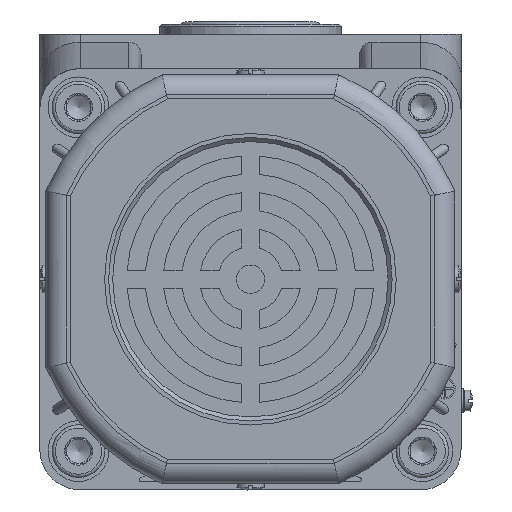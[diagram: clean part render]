
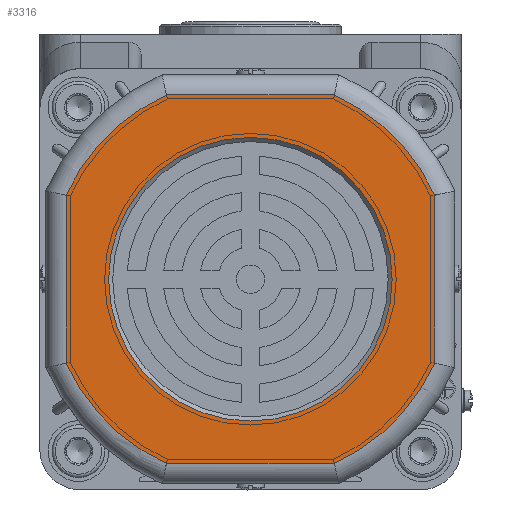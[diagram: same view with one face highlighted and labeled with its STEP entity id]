
A CAD part, left-side view. The second image highlights one B-rep face of the part: STEP entity #3316.
In plain terms, the highlighted planar face has unit normal (-1, 0, 0).
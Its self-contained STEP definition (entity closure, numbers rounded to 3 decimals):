
#1539=FACE_BOUND('',#7370,.T.);
#1540=FACE_BOUND('',#7371,.T.);
#3316=ADVANCED_FACE('',(#1539,#1540),#5070,.F.);
#5070=PLANE('',#30968);
#7370=EDGE_LOOP('',(#10173));
#7371=EDGE_LOOP('',(#10174,#10175,#10176,#10177,#10178,#10179,#10180,#10181));
#10173=ORIENTED_EDGE('',*,*,#21130,.T.);
#10174=ORIENTED_EDGE('',*,*,#21140,.T.);
#10175=ORIENTED_EDGE('',*,*,#21135,.T.);
#10176=ORIENTED_EDGE('',*,*,#21142,.T.);
#10177=ORIENTED_EDGE('',*,*,#21148,.T.);
#10178=ORIENTED_EDGE('',*,*,#21154,.T.);
#10179=ORIENTED_EDGE('',*,*,#21156,.T.);
#10180=ORIENTED_EDGE('',*,*,#21152,.T.);
#10181=ORIENTED_EDGE('',*,*,#21146,.T.);
#18204=VERTEX_POINT('',#42390);
#18209=VERTEX_POINT('',#42412);
#18210=VERTEX_POINT('',#42414);
#18212=VERTEX_POINT('',#42442);
#18215=VERTEX_POINT('',#42460);
#18216=VERTEX_POINT('',#42476);
#18219=VERTEX_POINT('',#42494);
#18220=VERTEX_POINT('',#42510);
#18223=VERTEX_POINT('',#42528);
#21130=EDGE_CURVE('',#18204,#18204,#29053,.T.);
#21135=EDGE_CURVE('',#18210,#18209,#29057,.T.);
#21140=EDGE_CURVE('',#18212,#18210,#25418,.T.);
#21142=EDGE_CURVE('',#18209,#18215,#25419,.T.);
#21146=EDGE_CURVE('',#18216,#18212,#29060,.T.);
#21148=EDGE_CURVE('',#18215,#18219,#29061,.T.);
#21152=EDGE_CURVE('',#18220,#18216,#25422,.T.);
#21154=EDGE_CURVE('',#18219,#18223,#25423,.T.);
#21156=EDGE_CURVE('',#18223,#18220,#29063,.T.);
#25418=LINE('',#42445,#27129);
#25419=LINE('',#42461,#27130);
#25422=LINE('',#42513,#27133);
#25423=LINE('',#42529,#27134);
#27129=VECTOR('',#34096,1.);
#27130=VECTOR('',#34099,1.);
#27133=VECTOR('',#34116,1.);
#27134=VECTOR('',#34119,1.);
#29053=CIRCLE('',#30706,35.);
#29057=CIRCLE('',#30712,50.);
#29060=CIRCLE('',#30718,50.);
#29061=CIRCLE('',#30720,50.);
#29063=CIRCLE('',#30725,50.);
#30706=AXIS2_PLACEMENT_3D('',#42389,#34077,#34078);
#30712=AXIS2_PLACEMENT_3D('',#42413,#34089,#34090);
#30718=AXIS2_PLACEMENT_3D('',#42479,#34105,#34106);
#30720=AXIS2_PLACEMENT_3D('',#42495,#34109,#34110);
#30725=AXIS2_PLACEMENT_3D('',#42532,#34123,#34124);
#30968=AXIS2_PLACEMENT_3D('',#43281,#34801,#34802);
#34077=DIRECTION('',(1.,0.,0.));
#34078=DIRECTION('',(0.,-1.,0.));
#34089=DIRECTION('',(-1.,0.,0.));
#34090=DIRECTION('',(0.,0.,1.));
#34096=DIRECTION('',(0.,-1.,0.));
#34099=DIRECTION('',(0.,0.,1.));
#34105=DIRECTION('',(-1.,0.,0.));
#34106=DIRECTION('',(0.,0.,1.));
#34109=DIRECTION('',(-1.,0.,0.));
#34110=DIRECTION('',(0.,0.,1.));
#34116=DIRECTION('',(0.,0.,-1.));
#34119=DIRECTION('',(0.,1.,0.));
#34123=DIRECTION('',(-1.,0.,0.));
#34124=DIRECTION('',(0.,0.,1.));
#34801=DIRECTION('',(1.,0.,0.));
#34802=DIRECTION('',(0.,0.,1.));
#42389=CARTESIAN_POINT('',(-227.8,-120.671,-58.491));
#42390=CARTESIAN_POINT('',(-227.8,-155.671,-58.491));
#42412=CARTESIAN_POINT('',(-227.8,-166.171,-79.221));
#42413=CARTESIAN_POINT('',(-227.8,-120.671,-58.491));
#42414=CARTESIAN_POINT('',(-227.8,-141.402,-103.991));
#42442=CARTESIAN_POINT('',(-227.8,-99.941,-103.991));
#42445=CARTESIAN_POINT('',(-227.8,-142.46,-103.991));
#42460=CARTESIAN_POINT('',(-227.8,-166.171,-37.76));
#42461=CARTESIAN_POINT('',(-227.8,-166.171,-36.702));
#42476=CARTESIAN_POINT('',(-227.8,-75.171,-79.221));
#42479=CARTESIAN_POINT('',(-227.8,-120.671,-58.491));
#42494=CARTESIAN_POINT('',(-227.8,-141.402,-12.991));
#42495=CARTESIAN_POINT('',(-227.8,-120.671,-58.491));
#42510=CARTESIAN_POINT('',(-227.8,-75.171,-37.76));
#42513=CARTESIAN_POINT('',(-227.8,-75.171,-80.28));
#42528=CARTESIAN_POINT('',(-227.8,-99.941,-12.991));
#42529=CARTESIAN_POINT('',(-227.8,-98.882,-12.991));
#42532=CARTESIAN_POINT('',(-227.8,-120.671,-58.491));
#43281=CARTESIAN_POINT('',(-227.8,-120.671,-58.491));
